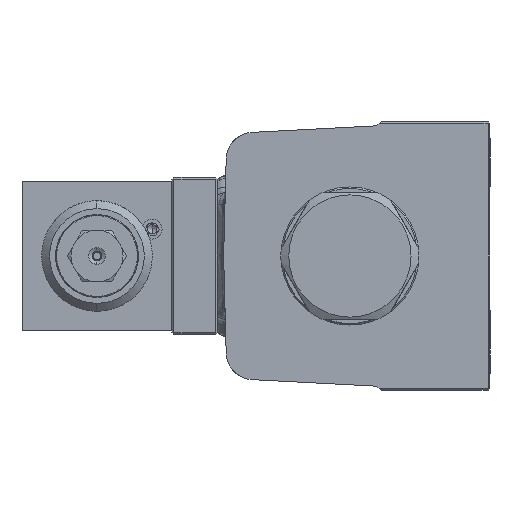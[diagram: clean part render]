
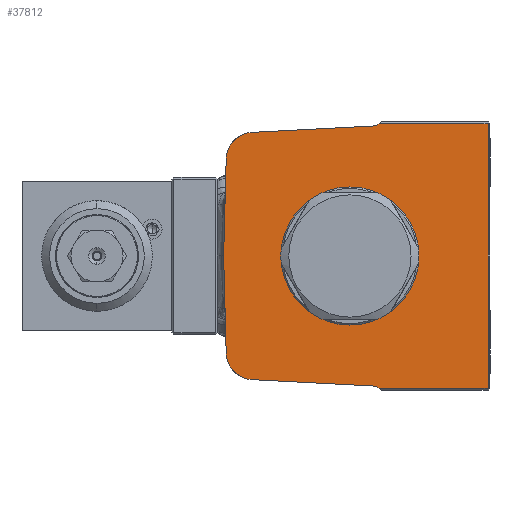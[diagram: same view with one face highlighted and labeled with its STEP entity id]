
A CAD part, left-side view. The second image highlights one B-rep face of the part: STEP entity #37812.
In plain terms, the highlighted planar face has unit normal (-1, 0, 0).
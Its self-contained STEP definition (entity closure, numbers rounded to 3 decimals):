
#292 = LINE ( 'NONE', #18592, #60416 ) ;
#441 = DIRECTION ( 'NONE',  ( -1., 0., 0. ) ) ;
#1238 = CARTESIAN_POINT ( 'NONE',  ( -46.6, -35., -33.5 ) ) ;
#1855 = DIRECTION ( 'NONE',  ( 0., -1., 0. ) ) ;
#2016 = ORIENTED_EDGE ( 'NONE', *, *, #48678, .F. ) ;
#3033 = AXIS2_PLACEMENT_3D ( 'NONE', #71026, #30793, #19314 ) ;
#3497 = EDGE_LOOP ( 'NONE', ( #26810, #47307 ) ) ;
#5483 = EDGE_CURVE ( 'NONE', #41883, #69106, #73021, .T. ) ;
#8222 = EDGE_CURVE ( 'NONE', #49501, #72723, #21572, .T. ) ;
#9001 = VERTEX_POINT ( 'NONE', #46967 ) ;
#9317 = VECTOR ( 'NONE', #1855, 1000. ) ;
#9451 = CARTESIAN_POINT ( 'NONE',  ( -46.6, 24.36, -24.347 ) ) ;
#10093 = ORIENTED_EDGE ( 'NONE', *, *, #24894, .T. ) ;
#11419 = CARTESIAN_POINT ( 'NONE',  ( -46.6, 0., 0. ) ) ;
#11976 = VERTEX_POINT ( 'NONE', #21220 ) ;
#12088 = CARTESIAN_POINT ( 'NONE',  ( -46.6, -7.444, 33.5 ) ) ;
#12103 = DIRECTION ( 'NONE',  ( 0., 0., 1. ) ) ;
#12503 = VERTEX_POINT ( 'NONE', #12088 ) ;
#12516 = CARTESIAN_POINT ( 'NONE',  ( -46.6, 31.978, 0.837 ) ) ;
#14075 = CARTESIAN_POINT ( 'NONE',  ( -46.6, 31.358, 24.53 ) ) ;
#14477 = AXIS2_PLACEMENT_3D ( 'NONE', #15671, #56392, #44868 ) ;
#14676 = DIRECTION ( 'NONE',  ( 0., -0.026, -1. ) ) ;
#15315 = DIRECTION ( 'NONE',  ( 1., 0., 0. ) ) ;
#15495 = ORIENTED_EDGE ( 'NONE', *, *, #69974, .T. ) ;
#15671 = CARTESIAN_POINT ( 'NONE',  ( -46.6, 24.36, 24.347 ) ) ;
#16900 = ORIENTED_EDGE ( 'NONE', *, *, #49297, .T. ) ;
#17738 = FACE_BOUND ( 'NONE', #3497, .T. ) ;
#18592 = CARTESIAN_POINT ( 'NONE',  ( -46.6, 1.706, -32.544 ) ) ;
#19314 = DIRECTION ( 'NONE',  ( 0., -1., 0. ) ) ;
#19325 = VERTEX_POINT ( 'NONE', #47470 ) ;
#20047 = CIRCLE ( 'NONE', #44865, 16. ) ;
#21220 = CARTESIAN_POINT ( 'NONE',  ( -46.6, 24.726, -31.337 ) ) ;
#21572 = LINE ( 'NONE', #43638, #26172 ) ;
#22390 = PLANE ( 'NONE',  #48594 ) ;
#22651 = CIRCLE ( 'NONE', #14477, 7. ) ;
#24349 = DIRECTION ( 'NONE',  ( 1., 0., 0. ) ) ;
#24894 = EDGE_CURVE ( 'NONE', #47302, #74116, #27076, .T. ) ;
#26172 = VECTOR ( 'NONE', #14676, 1000. ) ;
#26810 = ORIENTED_EDGE ( 'NONE', *, *, #5483, .F. ) ;
#27076 = CIRCLE ( 'NONE', #56691, 3. ) ;
#28963 = EDGE_CURVE ( 'NONE', #11976, #72723, #47383, .T. ) ;
#29285 = CARTESIAN_POINT ( 'NONE',  ( -46.6, -16., 0. ) ) ;
#30017 = CARTESIAN_POINT ( 'NONE',  ( -46.6, -35., -34. ) ) ;
#30246 = CARTESIAN_POINT ( 'NONE',  ( -46.6, -5.693, 35.936 ) ) ;
#30746 = EDGE_LOOP ( 'NONE', ( #10093, #65782, #68213, #16900, #37470, #72783, #35822, #2016, #74500, #60627, #15495 ) ) ;
#30793 = DIRECTION ( 'NONE',  ( -1., 0., 0. ) ) ;
#30919 = CARTESIAN_POINT ( 'NONE',  ( -46.6, -35.5, -33.5 ) ) ;
#32089 = VECTOR ( 'NONE', #71891, 1000. ) ;
#32114 = CIRCLE ( 'NONE', #67512, 3. ) ;
#33264 = FACE_OUTER_BOUND ( 'NONE', #30746, .T. ) ;
#33670 = VERTEX_POINT ( 'NONE', #40173 ) ;
#34059 = CARTESIAN_POINT ( 'NONE',  ( -46.6, -35.5, -34. ) ) ;
#35036 = DIRECTION ( 'NONE',  ( 0., 0., 1. ) ) ;
#35822 = ORIENTED_EDGE ( 'NONE', *, *, #55429, .T. ) ;
#37470 = ORIENTED_EDGE ( 'NONE', *, *, #70563, .T. ) ;
#37812 = ADVANCED_FACE ( 'NONE', ( #33264, #17738 ), #22390, .T. ) ;
#39466 = AXIS2_PLACEMENT_3D ( 'NONE', #9451, #15315, #55999 ) ;
#40173 = CARTESIAN_POINT ( 'NONE',  ( -46.6, -5.85, 32.94 ) ) ;
#40200 = LINE ( 'NONE', #48148, #32089 ) ;
#40390 = EDGE_CURVE ( 'NONE', #69106, #41883, #20047, .T. ) ;
#41022 = CARTESIAN_POINT ( 'NONE',  ( -46.6, 1.706, 32.544 ) ) ;
#41131 = DIRECTION ( 'NONE',  ( 1., 0., 0. ) ) ;
#41161 = LINE ( 'NONE', #30919, #9317 ) ;
#41883 = VERTEX_POINT ( 'NONE', #29285 ) ;
#41920 = DIRECTION ( 'NONE',  ( 0., 0., 1. ) ) ;
#43638 = CARTESIAN_POINT ( 'NONE',  ( -46.6, 31.978, -0.837 ) ) ;
#44865 = AXIS2_PLACEMENT_3D ( 'NONE', #11419, #441, #64319 ) ;
#44868 = DIRECTION ( 'NONE',  ( 0., 0., 1. ) ) ;
#46533 = LINE ( 'NONE', #30017, #71284 ) ;
#46966 = DIRECTION ( 'NONE',  ( 0., 0., 1. ) ) ;
#46967 = CARTESIAN_POINT ( 'NONE',  ( -46.6, -35., 33.5 ) ) ;
#47302 = VERTEX_POINT ( 'NONE', #58830 ) ;
#47307 = ORIENTED_EDGE ( 'NONE', *, *, #40390, .F. ) ;
#47383 = CIRCLE ( 'NONE', #39466, 7. ) ;
#47470 = CARTESIAN_POINT ( 'NONE',  ( -46.6, 24.726, 31.337 ) ) ;
#48148 = CARTESIAN_POINT ( 'NONE',  ( -46.6, -35.5, 33.5 ) ) ;
#48397 = VERTEX_POINT ( 'NONE', #14075 ) ;
#48594 = AXIS2_PLACEMENT_3D ( 'NONE', #34059, #69451, #35036 ) ;
#48678 = EDGE_CURVE ( 'NONE', #49501, #48397, #75094, .T. ) ;
#49297 = EDGE_CURVE ( 'NONE', #9001, #12503, #40200, .T. ) ;
#49303 = EDGE_CURVE ( 'NONE', #74116, #51640, #41161, .T. ) ;
#49501 = VERTEX_POINT ( 'NONE', #61920 ) ;
#49827 = VECTOR ( 'NONE', #58873, 1000. ) ;
#50468 = CARTESIAN_POINT ( 'NONE',  ( -46.6, -7.444, -33.5 ) ) ;
#51640 = VERTEX_POINT ( 'NONE', #1238 ) ;
#55429 = EDGE_CURVE ( 'NONE', #19325, #48397, #22651, .T. ) ;
#55999 = DIRECTION ( 'NONE',  ( 0., 0., 1. ) ) ;
#56392 = DIRECTION ( 'NONE',  ( -1., 0., 0. ) ) ;
#56691 = AXIS2_PLACEMENT_3D ( 'NONE', #64240, #24349, #12103 ) ;
#57353 = CARTESIAN_POINT ( 'NONE',  ( -46.6, 31.358, -24.53 ) ) ;
#58760 = EDGE_CURVE ( 'NONE', #51640, #9001, #46533, .T. ) ;
#58830 = CARTESIAN_POINT ( 'NONE',  ( -46.6, -5.85, -32.94 ) ) ;
#58873 = DIRECTION ( 'NONE',  ( 0., -0.999, 0.052 ) ) ;
#59288 = DIRECTION ( 'NONE',  ( 0., -0.026, 1. ) ) ;
#60416 = VECTOR ( 'NONE', #70529, 1000. ) ;
#60627 = ORIENTED_EDGE ( 'NONE', *, *, #28963, .F. ) ;
#60801 = LINE ( 'NONE', #41022, #49827 ) ;
#61920 = CARTESIAN_POINT ( 'NONE',  ( -46.6, 32., 0. ) ) ;
#64240 = CARTESIAN_POINT ( 'NONE',  ( -46.6, -5.693, -35.936 ) ) ;
#64319 = DIRECTION ( 'NONE',  ( 0., -1., 0. ) ) ;
#65782 = ORIENTED_EDGE ( 'NONE', *, *, #49303, .T. ) ;
#67512 = AXIS2_PLACEMENT_3D ( 'NONE', #30246, #41131, #46966 ) ;
#68213 = ORIENTED_EDGE ( 'NONE', *, *, #58760, .T. ) ;
#69106 = VERTEX_POINT ( 'NONE', #71020 ) ;
#69451 = DIRECTION ( 'NONE',  ( -1., 0., 0. ) ) ;
#69974 = EDGE_CURVE ( 'NONE', #11976, #47302, #292, .T. ) ;
#70529 = DIRECTION ( 'NONE',  ( 0., -0.999, -0.052 ) ) ;
#70563 = EDGE_CURVE ( 'NONE', #12503, #33670, #32114, .T. ) ;
#71020 = CARTESIAN_POINT ( 'NONE',  ( -46.6, 16., 0. ) ) ;
#71026 = CARTESIAN_POINT ( 'NONE',  ( -46.6, 0., 0. ) ) ;
#71284 = VECTOR ( 'NONE', #41920, 1000. ) ;
#71831 = EDGE_CURVE ( 'NONE', #19325, #33670, #60801, .T. ) ;
#71891 = DIRECTION ( 'NONE',  ( 0., 1., 0. ) ) ;
#72417 = VECTOR ( 'NONE', #59288, 1000. ) ;
#72723 = VERTEX_POINT ( 'NONE', #57353 ) ;
#72783 = ORIENTED_EDGE ( 'NONE', *, *, #71831, .F. ) ;
#73021 = CIRCLE ( 'NONE', #3033, 16. ) ;
#74116 = VERTEX_POINT ( 'NONE', #50468 ) ;
#74500 = ORIENTED_EDGE ( 'NONE', *, *, #8222, .T. ) ;
#75094 = LINE ( 'NONE', #12516, #72417 ) ;
